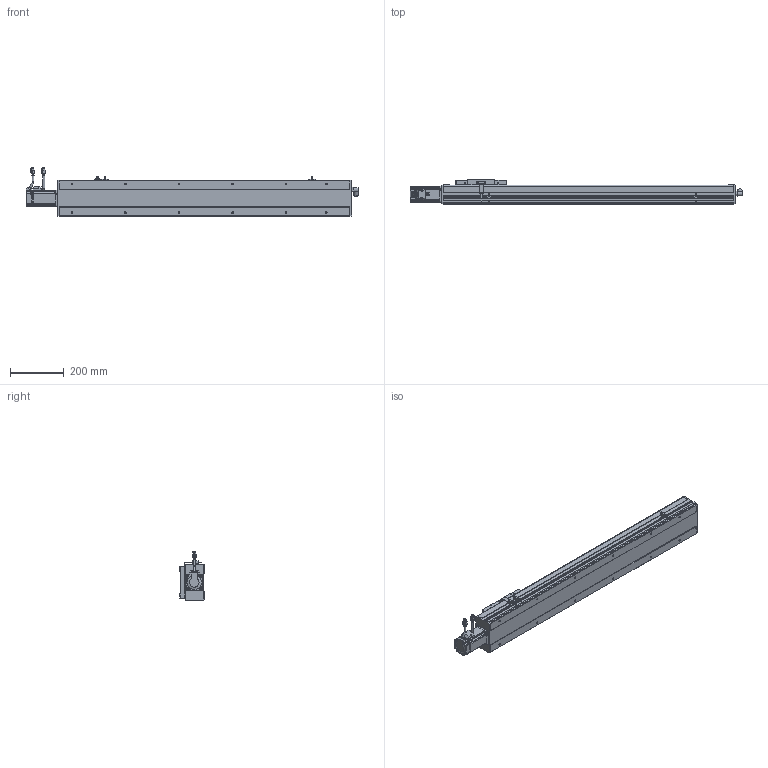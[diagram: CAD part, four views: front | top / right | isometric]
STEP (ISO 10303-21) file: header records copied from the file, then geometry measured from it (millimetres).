
FILE_DESCRIPTION(/* description */ ('STEP AP214'),/* implementation_level */ '2;1');
FILE_NAME(/* name */ 'PSC140-L05-S800-BC-P40-C1-N(0)',/* time_stamp */ '2022-06-13T03:16:03+02:00',/* author */ ('License CC BY-ND 4.0'),/* organization */ ('CADENAS'),/* preprocessor_version */ 'ST-DEVELOPER v18.102',/* originating_system */ 'PARTsolutions',/* authorisation */ ' ');
FILE_SCHEMA (('AUTOMOTIVE_DESIGN {1 0 10303 214 3 1 1}'));
Length unit declared in the file: millimetre
Products named in the file (10): PSC140-L05-S800-BC-P40-C1-N(0); P40-s2; P40-c2; P40-s1; P40-c1; P40-p1; PSC140-sensor; PSC140-BC-SLIDER; PSC140-S800-BC-P40-C1_BODY1; PSC140-L05-S800-BC-P40-C1-N(0)_dummy
Assembly tree (11 placements, depth 2):
  PSC140-L05-S800-BC-P40-C1-N(0)
    P40-s2
    P40-c2
    P40-s1
    P40-c1
    P40-p1
    PSC140-sensor  x3
    PSC140-BC-SLIDER
    PSC140-S800-BC-P40-C1_BODY1
    PSC140-L05-S800-BC-P40-C1-N(0)_dummy
Bounding box: 1239 x 91 x 182.48 mm (x, y, z)
Volume: 11139315.1 mm3; surface area: 650215.7 mm2
Topology: 10 solids, 10 shells, 1250 faces, 3220 edges, 2127 vertices
Faces by surface type: plane 866, cylinder 317, cone 48, torus 19
Full cylindrical faces by diameter (mm): 1 x8, 2.6 x10, 2.8 x3, 3.3 x8, 4.5 x12, 4.6 x3, 4.917 x16, 5 x4, 5.5 x8, 6 x10, 6.08 x4, 7 x10, 9 x2, 10 x1, 11 x1, 13.74 x1, 14 x1, 16.4 x2, 16.5 x1, 19.98 x1, 31.98 x1, 35.5 x1, 50 x2
Entity records: 34478 total; most frequent: CARTESIAN_POINT 6019, DIRECTION 5803, ORIENTED_EDGE 5582, EDGE_CURVE 2791, LINE 2109, VECTOR 2109, VERTEX_POINT 1948, AXIS2_PLACEMENT_3D 1847
